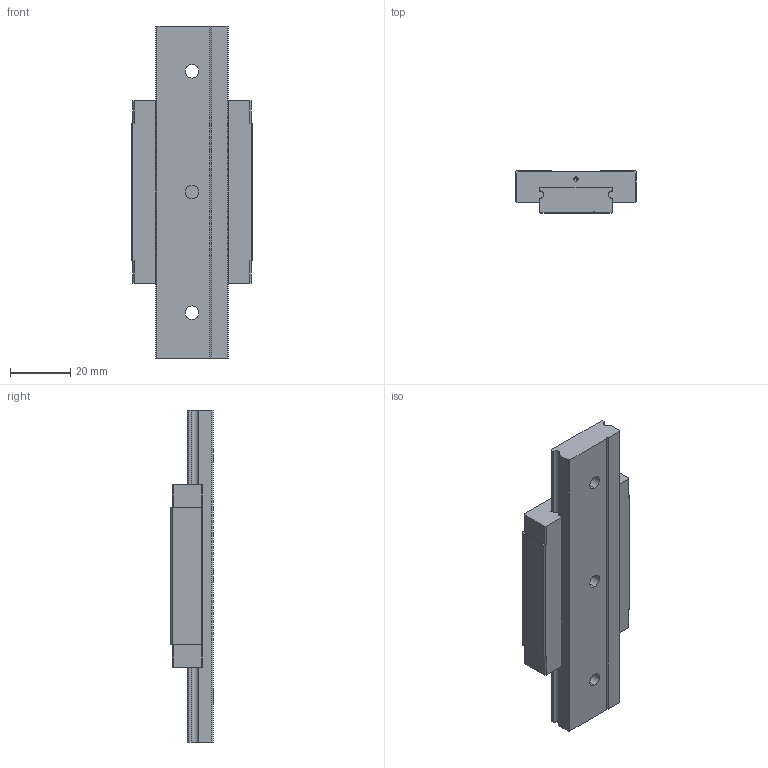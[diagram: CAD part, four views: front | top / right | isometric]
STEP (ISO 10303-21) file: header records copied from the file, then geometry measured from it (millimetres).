
FILE_DESCRIPTION (( 'STEP AP214' ), '1' );
FILE_NAME ('7.1051 Lineaarikelkka MTW12H.STEP', '2026-03-16T07:56:17', ( '' ), ( '' ), 'SwSTEP 2.0', 'SolidWorks 2025', '' );
FILE_SCHEMA (( 'AUTOMOTIVE_DESIGN' ));
Length unit declared in the file: millimetre
Products named in the file (1): 7.1051 Lineaarikelkka MTW12H
Bounding box: 40 x 14 x 110 mm (x, y, z)
Volume: 38843.7 mm3; surface area: 15845.5 mm2
Topology: 2 solids, 2 shells, 211 faces, 566 edges, 368 vertices
Faces by surface type: plane 144, cylinder 33, bspline 22, cone 12
Entity records: 10285 total; most frequent: CARTESIAN_POINT 2784, ORIENTED_EDGE 1108, DIRECTION 958, EDGE_CURVE 554, VECTOR 442, LINE 442, VERTEX_POINT 368, AXIS2_PLACEMENT_3D 258
